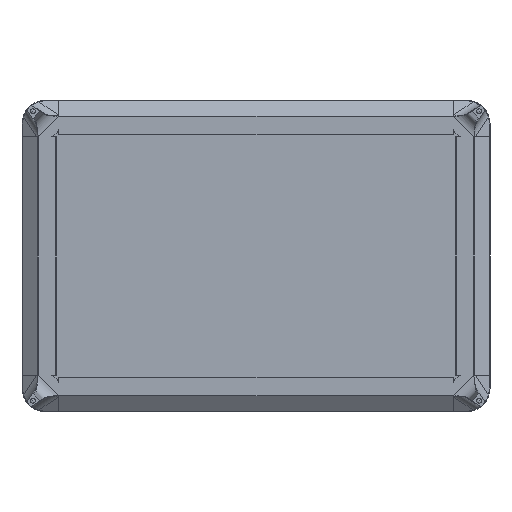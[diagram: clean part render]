
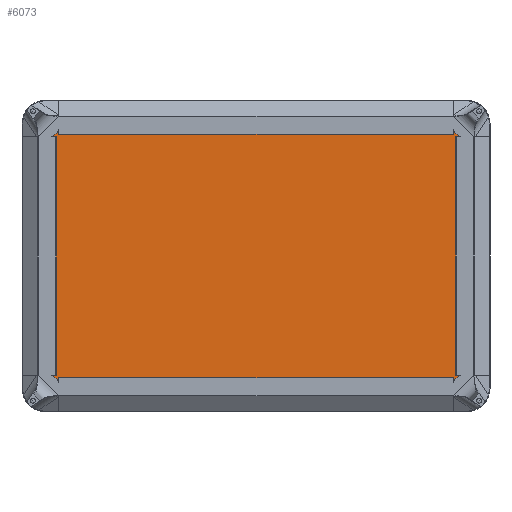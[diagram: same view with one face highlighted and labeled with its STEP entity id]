
A CAD part, front view. The second image highlights one B-rep face of the part: STEP entity #6073.
In plain terms, the highlighted planar face has unit normal (0, -1, 0).
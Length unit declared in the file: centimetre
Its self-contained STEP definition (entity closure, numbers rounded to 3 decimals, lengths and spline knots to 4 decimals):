
#597=LINE('',#11402,#1141);
#598=LINE('',#11406,#1142);
#599=LINE('',#11410,#1143);
#600=LINE('',#11414,#1144);
#1141=VECTOR('',#8204,107.6);
#1142=VECTOR('',#8207,67.6);
#1143=VECTOR('',#8210,107.6);
#1144=VECTOR('',#8213,67.6);
#1395=PLANE('',#6626);
#1702=FACE_OUTER_BOUND('',#2175,.T.);
#2175=EDGE_LOOP('',(#5421,#5422,#5423,#5424,#5425,#5426,#5427,#5428));
#2409=CIRCLE('',#6627,5.9);
#2410=CIRCLE('',#6628,5.9);
#2411=CIRCLE('',#6629,5.9);
#2412=CIRCLE('',#6630,5.9);
#2929=VERTEX_POINT('',#11400);
#2930=VERTEX_POINT('',#11401);
#2931=VERTEX_POINT('',#11403);
#2932=VERTEX_POINT('',#11405);
#2933=VERTEX_POINT('',#11407);
#2934=VERTEX_POINT('',#11409);
#2935=VERTEX_POINT('',#11411);
#2936=VERTEX_POINT('',#11413);
#3757=EDGE_CURVE('',#2929,#2930,#597,.T.);
#3758=EDGE_CURVE('',#2931,#2929,#2409,.T.);
#3759=EDGE_CURVE('',#2932,#2931,#598,.T.);
#3760=EDGE_CURVE('',#2933,#2932,#2410,.T.);
#3761=EDGE_CURVE('',#2934,#2933,#599,.T.);
#3762=EDGE_CURVE('',#2935,#2934,#2411,.T.);
#3763=EDGE_CURVE('',#2936,#2935,#600,.T.);
#3764=EDGE_CURVE('',#2930,#2936,#2412,.T.);
#5421=ORIENTED_EDGE('',*,*,#3757,.F.);
#5422=ORIENTED_EDGE('',*,*,#3758,.F.);
#5423=ORIENTED_EDGE('',*,*,#3759,.F.);
#5424=ORIENTED_EDGE('',*,*,#3760,.F.);
#5425=ORIENTED_EDGE('',*,*,#3761,.F.);
#5426=ORIENTED_EDGE('',*,*,#3762,.F.);
#5427=ORIENTED_EDGE('',*,*,#3763,.F.);
#5428=ORIENTED_EDGE('',*,*,#3764,.F.);
#6073=ADVANCED_FACE('',(#1702),#1395,.F.);
#6626=AXIS2_PLACEMENT_3D('',#11399,#8202,#8203);
#6627=AXIS2_PLACEMENT_3D('',#11404,#8205,#8206);
#6628=AXIS2_PLACEMENT_3D('',#11408,#8208,#8209);
#6629=AXIS2_PLACEMENT_3D('',#11412,#8211,#8212);
#6630=AXIS2_PLACEMENT_3D('',#11415,#8214,#8215);
#8202=DIRECTION('center_axis',(0.,1.,0.));
#8203=DIRECTION('ref_axis',(-1.,0.,0.));
#8204=DIRECTION('',(-1.,0.,0.));
#8205=DIRECTION('center_axis',(0.,1.,0.));
#8206=DIRECTION('ref_axis',(0.707,0.,-0.707));
#8207=DIRECTION('',(0.,0.,-1.));
#8208=DIRECTION('center_axis',(0.,1.,0.));
#8209=DIRECTION('ref_axis',(0.707,0.,0.707));
#8210=DIRECTION('',(1.,0.,0.));
#8211=DIRECTION('center_axis',(0.,1.,0.));
#8212=DIRECTION('ref_axis',(-0.707,0.,0.707));
#8213=DIRECTION('',(0.,0.,1.));
#8214=DIRECTION('center_axis',(0.,1.,0.));
#8215=DIRECTION('ref_axis',(-0.707,0.,-0.707));
#11399=CARTESIAN_POINT('Origin',(64.7963,1.7898,-35.5));
#11400=CARTESIAN_POINT('',(118.5963,1.7898,-75.2));
#11401=CARTESIAN_POINT('',(10.9963,1.7898,-75.2));
#11402=CARTESIAN_POINT('',(34.8963,1.7898,-75.2));
#11403=CARTESIAN_POINT('',(124.4963,1.7898,-69.3));
#11404=CARTESIAN_POINT('Origin',(118.5963,1.7898,-69.3));
#11405=CARTESIAN_POINT('',(124.4963,1.7898,-1.7));
#11406=CARTESIAN_POINT('',(124.4963,1.7898,-55.4));
#11407=CARTESIAN_POINT('',(118.5963,1.7898,4.2));
#11408=CARTESIAN_POINT('Origin',(118.5963,1.7898,-1.7));
#11409=CARTESIAN_POINT('',(10.9963,1.7898,4.2));
#11410=CARTESIAN_POINT('',(94.6963,1.7898,4.2));
#11411=CARTESIAN_POINT('',(5.0963,1.7898,-1.7));
#11412=CARTESIAN_POINT('Origin',(10.9963,1.7898,-1.7));
#11413=CARTESIAN_POINT('',(5.0963,1.7898,-69.3));
#11414=CARTESIAN_POINT('',(5.0963,1.7898,-15.6));
#11415=CARTESIAN_POINT('Origin',(10.9963,1.7898,-69.3));
